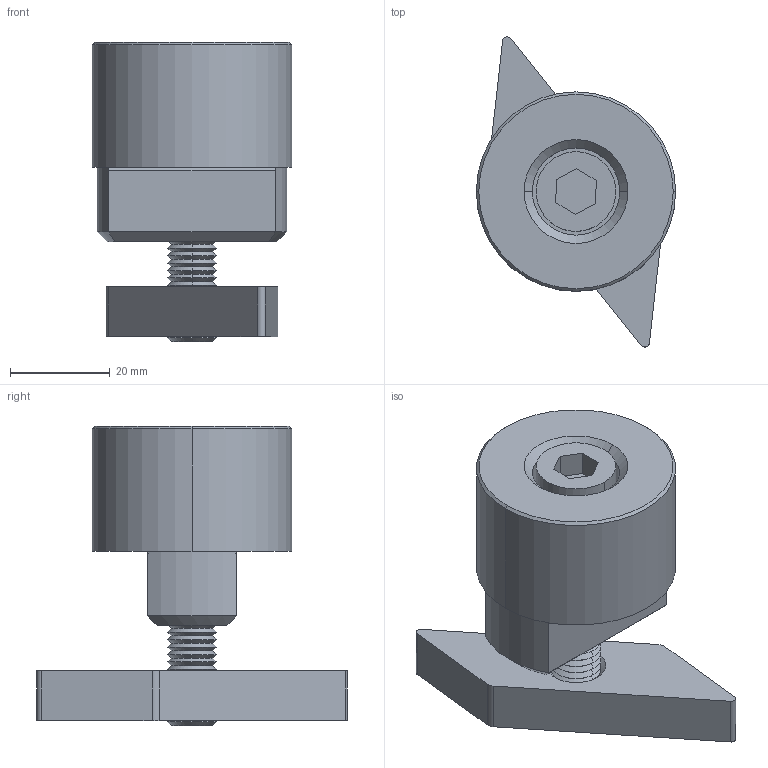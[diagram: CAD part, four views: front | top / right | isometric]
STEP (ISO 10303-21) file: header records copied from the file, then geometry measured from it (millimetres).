
FILE_DESCRIPTION (( 'STEP AP203' ), '1' );
FILE_NAME ('30200.W0118.step', '2017-06-30T11:03:08', ( 'User' ), ( '' ), 'SwSTEP 2.0', 'SolidWorks 2009', '' );
FILE_SCHEMA (( 'CONFIG_CONTROL_DESIGN' ));
Length unit declared in the file: millimetre
Products named in the file (4): Part1_30200.W0118; 30200.W0118; screw_M10x50; Wedge_30200.W0118
Assembly tree (3 placements, depth 2):
  30200.W0118
    Wedge_30200.W0118
    screw_M10x50
    Part1_30200.W0118
Bounding box: 40 x 62.2 x 60 mm (x, y, z)
Volume: 49346 mm3; surface area: 14994.3 mm2
Topology: 3 solids, 3 shells, 132 faces, 281 edges, 159 vertices
Faces by surface type: cone 79, plane 34, cylinder 19
Entity records: 3908 total; most frequent: DIRECTION 670, CARTESIAN_POINT 590, ORIENTED_EDGE 562, EDGE_CURVE 281, AXIS2_PLACEMENT_3D 255, VECTOR 160, LINE 160, VERTEX_POINT 159
